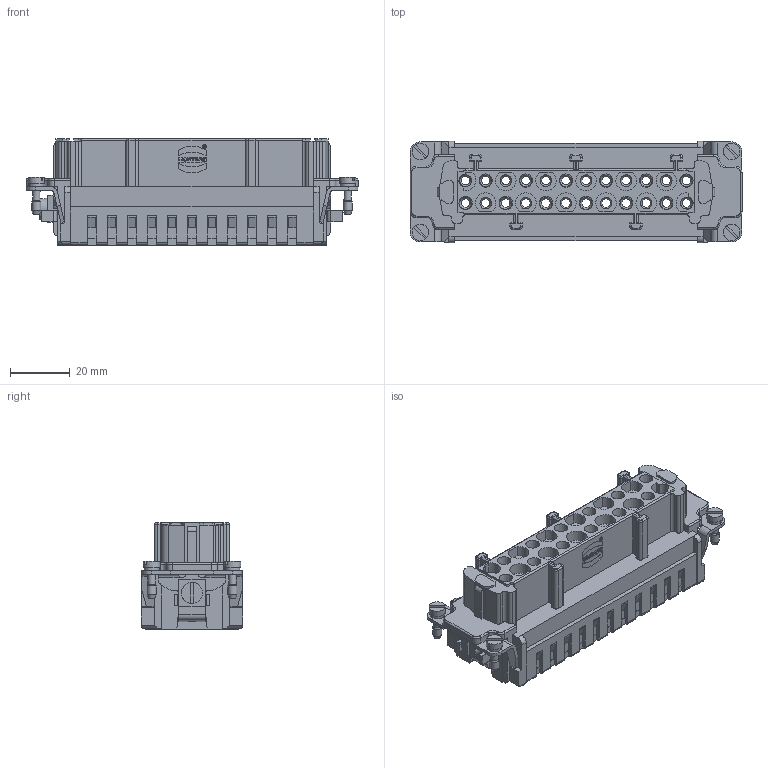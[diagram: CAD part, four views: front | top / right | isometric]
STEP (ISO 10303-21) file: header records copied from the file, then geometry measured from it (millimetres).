
FILE_DESCRIPTION(/* description */ (''),/* implementation_level */ '2;1');
FILE_NAME(/* name */ '100555391ugm000_d.stp',/* time_stamp */ '2022-03-11T19:07:52+01:00',/* author */ (''),/* organization */ (''),/* preprocessor_version */ 'ST-DEVELOPER v16.7',/* originating_system */ 'SIEMENS PLM Software NX 1911',/* authorisation */ '');
FILE_SCHEMA (('AUTOMOTIVE_DESIGN { 1 0 10303 214 3 1 1 1 }'));
Length unit declared in the file: millimetre
Products named in the file (1): 100555391ugm000_d
Bounding box: 110.85 x 33.9 x 35.5 mm (x, y, z)
Volume: 65133.7 mm3; surface area: 32493.3 mm2
Topology: 1 solids, 1 shells, 1408 faces, 3920 edges, 2579 vertices
Faces by surface type: plane 924, cylinder 336, bspline 58, cone 44, extrusion 24, torus 12, sphere 10
Full cylindrical faces by diameter (mm): 1.025 x1, 1.211 x1, 2.13 x2, 2.285 x2, 2.5 x4, 2.85 x24, 3 x4, 3.242 x1, 4.85 x24, 5 x4, 5.5 x4, 7 x1
Entity records: 50427 total; most frequent: CARTESIAN_POINT 13161, ORIENTED_EDGE 7352, DIRECTION 6694, EDGE_CURVE 3676, VECTOR 2574, LINE 2550, VERTEX_POINT 2460, AXIS2_PLACEMENT_3D 2060
